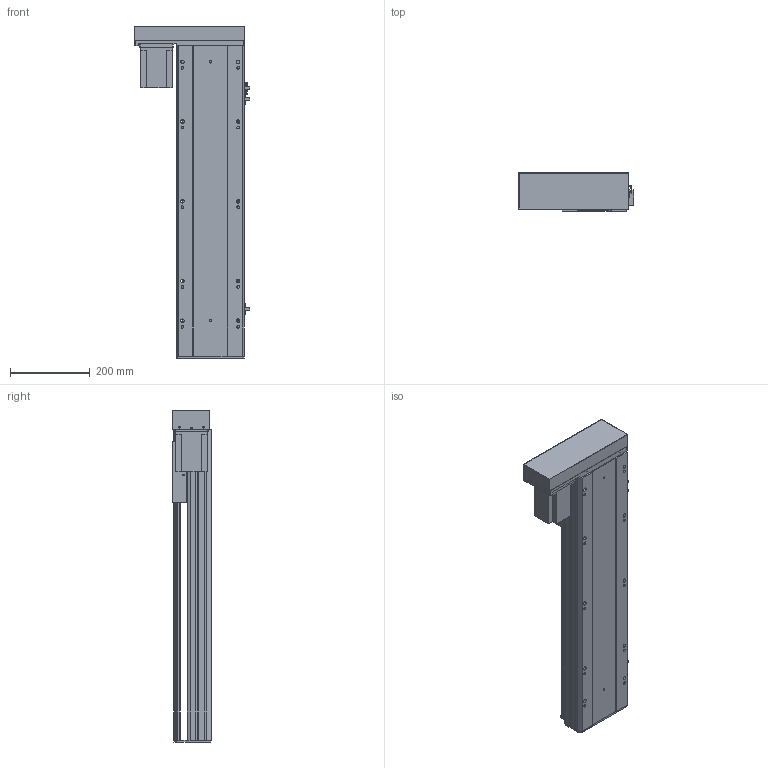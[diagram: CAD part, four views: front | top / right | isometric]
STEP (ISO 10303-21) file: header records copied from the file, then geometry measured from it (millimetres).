
FILE_DESCRIPTION (( 'STEP AP203' ), '1' );
FILE_NAME ('Y170-D10-S550-BL-P750W.STEP', '2020-01-19T22:54:11', ( '微软用户' ), ( '微软中国' ), 'SwSTEP 2.0', 'SolidWorks 2017', '' );
FILE_SCHEMA (( 'CONFIG_CONTROL_DESIGN' ));
Length unit declared in the file: millimetre
Products named in the file (12): Y170-BL-P750W楊擘啣; 侂狟750W; EGH20賑輸_蕼偞; Y雄赽釱-耜蚾; Y-BL.BR-俋欶; Y170耜裔--準---; Y170-陔遴奻裔-BR; YD-Y100-135-新外置传感挡片(通用）; Y--BL蟀諉啣-陔遴-; Y100-135俋离換覜ん; Y170-D10-S550-BL-P750W; 170--掛极-BR
Assembly tree (14 placements, depth 2):
  Y170-D10-S550-BL-P750W
    Y170耜裔--準---
    YD-Y100-135-新外置传感挡片(通用）
    Y100-135俋离換覜ん  x3
    170--掛极-BR
    Y170-BL-P750W楊擘啣
    侂狟750W
    EGH20賑輸_蕼偞  x2
    Y雄赽釱-耜蚾
    Y-BL.BR-俋欶
    Y170-陔遴奻裔-BR
    Y--BL蟀諉啣-陔遴-
Bounding box: 289 x 97 x 833.5 mm (x, y, z)
Volume: 4407945.1 mm3; surface area: 1480112.3 mm2
Topology: 14 solids, 14 shells, 909 faces, 2546 edges, 1680 vertices
Faces by surface type: cylinder 450, plane 443, cone 16
Entity records: 28570 total; most frequent: CARTESIAN_POINT 4998, DIRECTION 4748, ORIENTED_EDGE 4588, EDGE_CURVE 2294, AXIS2_PLACEMENT_3D 1682, VERTEX_POINT 1524, LINE 1384, VECTOR 1384
